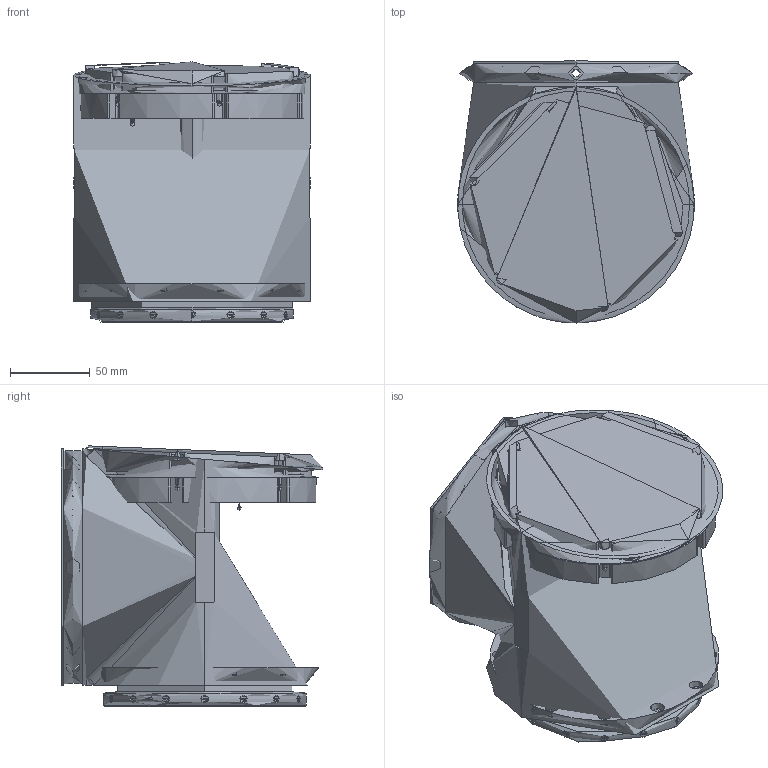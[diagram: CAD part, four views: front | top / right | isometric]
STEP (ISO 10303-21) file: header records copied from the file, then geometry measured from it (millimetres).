
FILE_DESCRIPTION (( 'STEP AP203' ), '1' );
FILE_NAME ('eRob142H｡ﾁ｡ﾁT-XX-18EX_V4_MC2B.BX.XX.step', '2025-03-20T11:37:52', ( 'Windows User' ), ( 'P R C' ), 'SwSTEP 2.0', 'SolidWorks 2021', '' );
FILE_SCHEMA (( 'CONFIG_CONTROL_DESIGN' ));
Length unit declared in the file: millimetre
Products named in the file (1): eRob142H××T-XX-18EX_V4_MC2B.BX.XX
Bounding box: 148 x 164 x 162.96 mm (x, y, z)
Topology: 16 solids, 293 shells, 6061 faces, 16201 edges, 10646 vertices
Faces by surface type: plane 2795, cylinder 2285, bspline 625, cone 264, torus 80, sphere 12
Full cylindrical faces by diameter (mm): 5 x175
Entity records: 480554 total; most frequent: CARTESIAN_POINT 342295, ORIENTED_EDGE 32414, DIRECTION 24395, EDGE_CURVE 16207, VERTEX_POINT 10545, LINE 9381, VECTOR 9381, AXIS2_PLACEMENT_3D 7507
